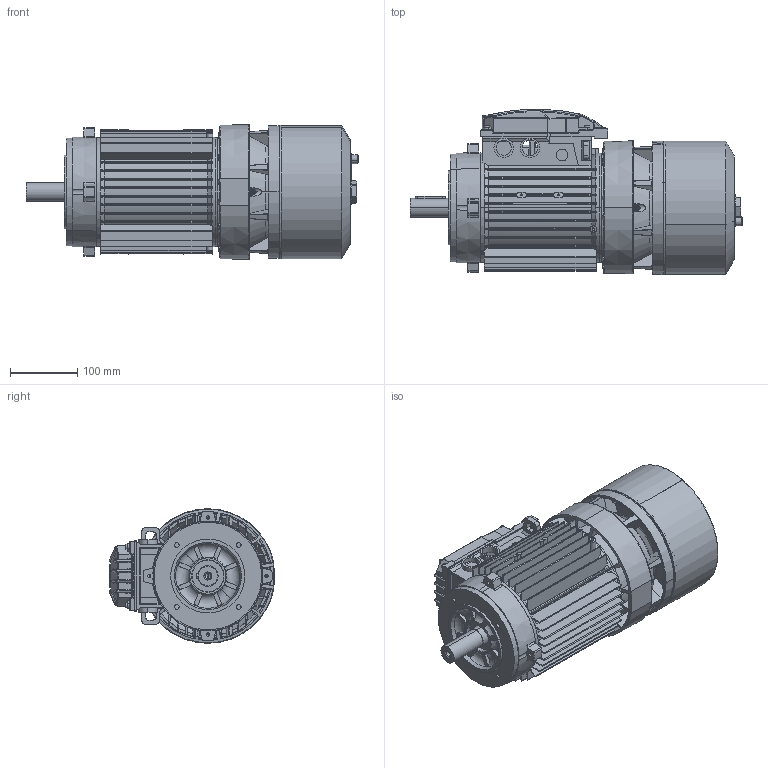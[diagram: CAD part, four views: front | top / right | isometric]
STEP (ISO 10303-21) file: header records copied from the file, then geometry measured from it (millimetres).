
FILE_DESCRIPTION (( 'STEP AP214' ), '1' );
FILE_NAME ('M02GC0013.STEP', '2021-09-17T10:53:15', ( '' ), ( '' ), 'SwSTEP 2.0', 'SolidWorks 2018', '' );
FILE_SCHEMA (( 'AUTOMOTIVE_DESIGN' ));
Length unit declared in the file: millimetre
Products named in the file (14): Cuffia serie BA 100; Albero BA 100; Convogliatore con pista d''attrito P2 BA 100 - DEAF0295; Scudo Lato Freno BA 100 P1 - DEAE0194; Scudo a Flangia B14 BA 100 - DEAC0194; Carcassa 100 B5 - DI; M02GC0013; Chiavetta 100-112; Anello per Gruppo Freno 100 - DBAU0294; Assieme coperchio scatola DI 100-112; Vite  a testa bombata M4x16; Guarnizione Coperchio scatola 100-112 DI; Coperchio 100-112 DI; Vite a Testa Esagona con foro e tappo 71-112 - Modificata
Assembly tree (16 placements, depth 3):
  M02GC0013
    Carcassa 100 B5 - DI
    Scudo a Flangia B14 BA 100 - DEAC0194
    Scudo Lato Freno BA 100 P1 - DEAE0194
    Convogliatore con pista d''attrito P2 BA 100 - DEAF0295
    Albero BA 100
    Cuffia serie BA 100
    Vite a Testa Esagona con foro e tappo 71-112 - Modificata
    Assieme coperchio scatola DI 100-112
      Coperchio 100-112 DI
      Guarnizione Coperchio scatola 100-112 DI
      Vite  a testa bombata M4x16  x4
    Anello per Gruppo Freno 100 - DBAU0294
    Chiavetta 100-112
Bounding box: 493.18 x 245.37 x 199.95 mm (x, y, z)
Volume: 2207483 mm3; surface area: 1145085.3 mm2
Topology: 15 solids, 15 shells, 3581 faces, 9704 edges, 6139 vertices
Faces by surface type: plane 1334, cylinder 914, bspline 585, torus 364, cone 350, sphere 34
Entity records: 160632 total; most frequent: CARTESIAN_POINT 66636, ORIENTED_EDGE 18384, DIRECTION 14968, EDGE_CURVE 9192, VERTEX_POINT 5903, AXIS2_PLACEMENT_3D 5405, LINE 4158, VECTOR 4158
